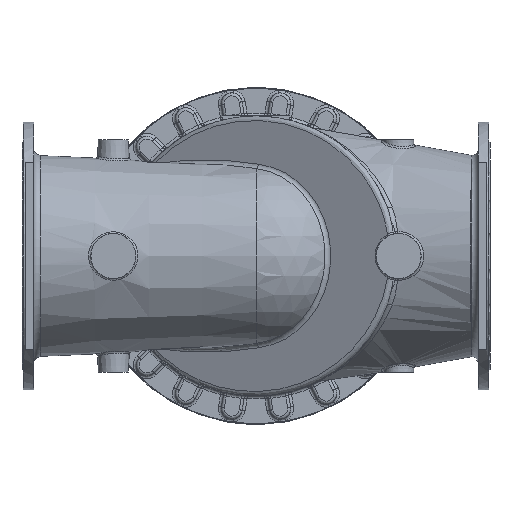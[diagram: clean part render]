
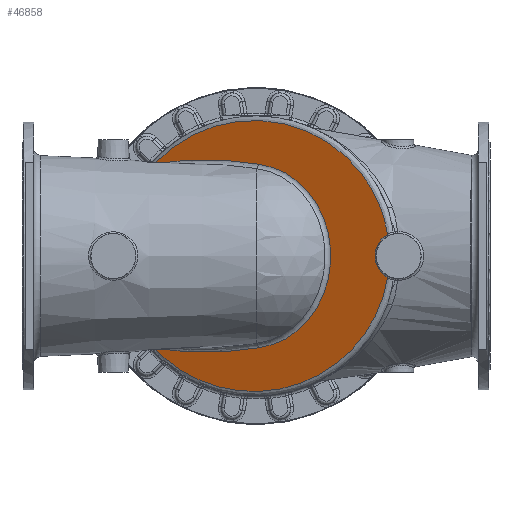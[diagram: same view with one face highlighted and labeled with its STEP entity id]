
A CAD part, front view. The second image highlights one B-rep face of the part: STEP entity #46858.
In plain terms, the highlighted planar face has unit normal (-0.479, -0.877, 0).
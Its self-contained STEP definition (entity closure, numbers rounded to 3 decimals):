
#44=ELLIPSE('',#50229,75.212,66.);
#46=ELLIPSE('',#50231,412.527,362.);
#47=ELLIPSE('',#50237,539.031,257.309);
#48=ELLIPSE('',#50239,539.031,257.309);
#49=ELLIPSE('',#50240,412.527,362.);
#8322=FACE_OUTER_BOUND('',#11305,.T.);
#11305=EDGE_LOOP('',(#33047,#33048,#33049,#33050,#33051,#33052));
#14278=CIRCLE('',#50238,246.599);
#18305=VERTEX_POINT('',#82099);
#18308=VERTEX_POINT('',#82167);
#18309=VERTEX_POINT('',#82361);
#18313=VERTEX_POINT('',#82808);
#18314=VERTEX_POINT('',#82810);
#18315=VERTEX_POINT('',#82812);
#23805=EDGE_CURVE('',#18305,#18308,#44,.T.);
#23809=EDGE_CURVE('',#18309,#18305,#46,.T.);
#23817=EDGE_CURVE('',#18313,#18309,#47,.T.);
#23818=EDGE_CURVE('',#18314,#18313,#14278,.T.);
#23819=EDGE_CURVE('',#18315,#18314,#48,.T.);
#23820=EDGE_CURVE('',#18308,#18315,#49,.T.);
#33047=ORIENTED_EDGE('',*,*,#23805,.F.);
#33048=ORIENTED_EDGE('',*,*,#23809,.F.);
#33049=ORIENTED_EDGE('',*,*,#23817,.F.);
#33050=ORIENTED_EDGE('',*,*,#23818,.F.);
#33051=ORIENTED_EDGE('',*,*,#23819,.F.);
#33052=ORIENTED_EDGE('',*,*,#23820,.F.);
#45288=PLANE('',#50236);
#46858=ADVANCED_FACE('',(#8322),#45288,.F.);
#50229=AXIS2_PLACEMENT_3D('',#82235,#58276,#58277);
#50231=AXIS2_PLACEMENT_3D('',#82368,#58280,#58281);
#50236=AXIS2_PLACEMENT_3D('',#82807,#58292,#58293);
#50237=AXIS2_PLACEMENT_3D('',#82809,#58294,#58295);
#50238=AXIS2_PLACEMENT_3D('',#82811,#58296,#58297);
#50239=AXIS2_PLACEMENT_3D('',#82813,#58298,#58299);
#50240=AXIS2_PLACEMENT_3D('',#82814,#58300,#58301);
#58276=DIRECTION('center_axis',(-0.48,-0.878,0.));
#58277=DIRECTION('ref_axis',(-0.878,0.48,0.));
#58280=DIRECTION('center_axis',(0.48,0.878,0.));
#58281=DIRECTION('ref_axis',(0.878,-0.48,0.));
#58292=DIRECTION('center_axis',(0.48,0.878,0.));
#58293=DIRECTION('ref_axis',(0.,0.,1.));
#58294=DIRECTION('center_axis',(-0.48,-0.878,0.));
#58295=DIRECTION('ref_axis',(-0.878,0.48,0.));
#58296=DIRECTION('center_axis',(-0.48,-0.878,0.));
#58297=DIRECTION('ref_axis',(0.878,-0.48,0.));
#58298=DIRECTION('center_axis',(-0.48,-0.878,0.));
#58299=DIRECTION('ref_axis',(-0.878,0.48,0.));
#58300=DIRECTION('center_axis',(0.48,0.878,0.));
#58301=DIRECTION('ref_axis',(0.878,-0.48,0.));
#82099=CARTESIAN_POINT('',(351.635,-231.813,57.589));
#82167=CARTESIAN_POINT('',(351.635,-231.813,-57.589));
#82235=CARTESIAN_POINT('Origin',(383.877,-249.433,0.));
#82361=CARTESIAN_POINT('',(-270.546,108.196,246.839));
#82368=CARTESIAN_POINT('Origin',(-5.755,-36.507,0.));
#82807=CARTESIAN_POINT('Origin',(-364.111,159.327,0.));
#82808=CARTESIAN_POINT('',(6.589,-43.253,245.169));
#82809=CARTESIAN_POINT('Origin',(-136.988,35.209,0.));
#82810=CARTESIAN_POINT('',(6.589,-43.253,-245.169));
#82811=CARTESIAN_POINT('Origin',(-16.686,-30.533,0.));
#82812=CARTESIAN_POINT('',(-270.546,108.196,-246.839));
#82813=CARTESIAN_POINT('Origin',(-136.988,35.209,0.));
#82814=CARTESIAN_POINT('Origin',(-5.755,-36.507,0.));
